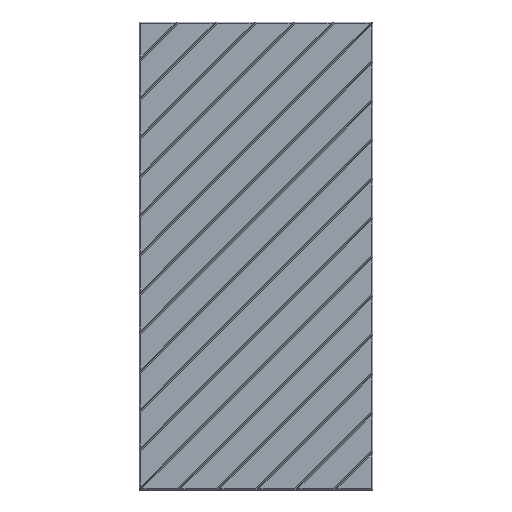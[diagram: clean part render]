
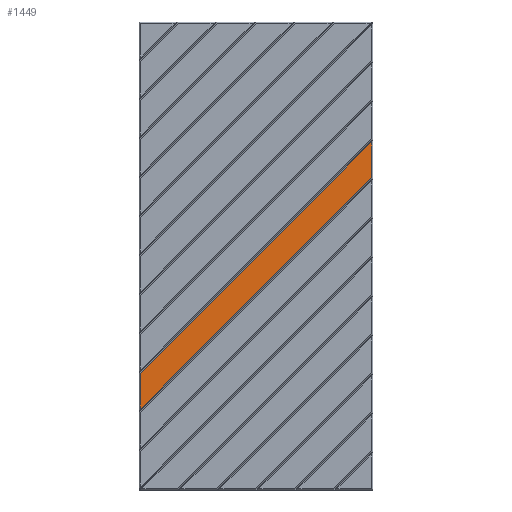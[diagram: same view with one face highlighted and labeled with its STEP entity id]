
A CAD part, top view. The second image highlights one B-rep face of the part: STEP entity #1449.
In plain terms, the highlighted planar face has unit normal (0, 0, 1).
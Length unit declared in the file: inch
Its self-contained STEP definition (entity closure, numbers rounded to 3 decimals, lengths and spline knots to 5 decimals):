
#55=FACE_OUTER_BOUND('',#148,.T.);
#148=EDGE_LOOP('',(#1074,#1075,#1076,#1077));
#253=LINE('',#2120,#454);
#323=LINE('',#2264,#524);
#330=LINE('',#2276,#531);
#331=LINE('',#2277,#532);
#454=VECTOR('',#1701,0.3937);
#524=VECTOR('',#1817,0.3937);
#531=VECTOR('',#1830,0.3937);
#532=VECTOR('',#1831,0.3937);
#646=VERTEX_POINT('',#2114);
#648=VERTEX_POINT('',#2118);
#699=VERTEX_POINT('',#2263);
#701=VERTEX_POINT('',#2275);
#765=EDGE_CURVE('',#646,#648,#253,.T.);
#835=EDGE_CURVE('',#646,#699,#323,.T.);
#842=EDGE_CURVE('',#701,#648,#330,.T.);
#843=EDGE_CURVE('',#701,#699,#331,.T.);
#1074=ORIENTED_EDGE('',*,*,#765,.T.);
#1075=ORIENTED_EDGE('',*,*,#842,.F.);
#1076=ORIENTED_EDGE('',*,*,#843,.T.);
#1077=ORIENTED_EDGE('',*,*,#835,.F.);
#1356=PLANE('',#1564);
#1449=ADVANCED_FACE('',(#55),#1356,.T.);
#1564=AXIS2_PLACEMENT_3D('',#2274,#1828,#1829);
#1701=DIRECTION('',(0.707,0.707,0.));
#1817=DIRECTION('',(0.,1.,0.));
#1828=DIRECTION('center_axis',(0.,0.,1.));
#1829=DIRECTION('ref_axis',(1.,0.,0.));
#1830=DIRECTION('',(0.,-1.,0.));
#1831=DIRECTION('',(-0.707,-0.707,0.));
#2114=CARTESIAN_POINT('',(-23.75,-31.39645,0.5));
#2118=CARTESIAN_POINT('',(23.75,16.10355,0.5));
#2120=CARTESIAN_POINT('',(15.08148,7.43503,0.5));
#2263=CARTESIAN_POINT('',(-23.75,-24.10355,0.5));
#2264=CARTESIAN_POINT('',(-23.75,24.,0.5));
#2274=CARTESIAN_POINT('Origin',(0.,0.,0.5));
#2275=CARTESIAN_POINT('',(23.75,23.39645,0.5));
#2276=CARTESIAN_POINT('',(23.75,-24.,0.5));
#2277=CARTESIAN_POINT('',(-13.08148,-13.43503,0.5));
